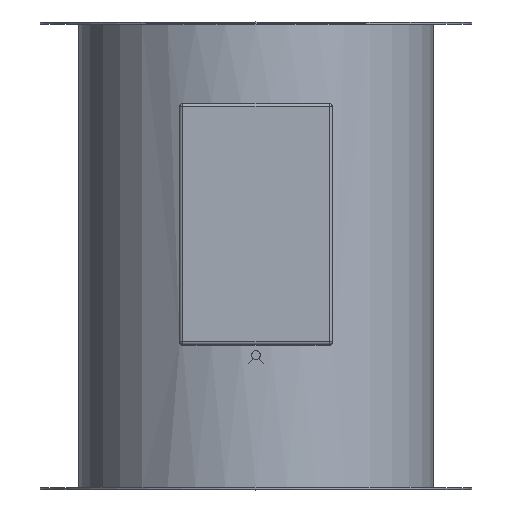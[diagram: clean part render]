
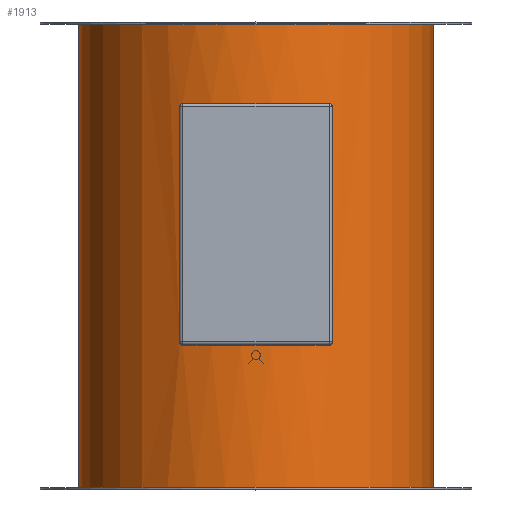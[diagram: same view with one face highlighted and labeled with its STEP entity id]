
A CAD part, top view. The second image highlights one B-rep face of the part: STEP entity #1913.
In plain terms, the highlighted cylindrical face has radius 113.75 mm (diameter 227.5 mm), a full revolution.
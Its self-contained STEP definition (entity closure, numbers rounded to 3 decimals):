
#19=FACE_BOUND('',#758,.T.);
#121=B_SPLINE_CURVE_WITH_KNOTS('',3,(#2638,#2639,#2640,#2641,#2642,#2643,
#2644,#2645,#2646,#2647),.UNSPECIFIED.,.F.,.F.,(4,2,2,2,4),(0.,0.075,
0.15,0.234,0.317),.UNSPECIFIED.);
#122=B_SPLINE_CURVE_WITH_KNOTS('',3,(#2676,#2677,#2678,#2679,#2680,#2681,
#2682,#2683,#2684,#2685),.UNSPECIFIED.,.F.,.F.,(4,2,2,2,4),(-0.317,
-0.234,-0.15,-0.075,0.),
 .UNSPECIFIED.);
#123=B_SPLINE_CURVE_WITH_KNOTS('',3,(#2691,#2692,#2693,#2694,#2695,#2696,
#2697,#2698,#2699,#2700),.UNSPECIFIED.,.F.,.F.,(4,2,2,2,4),(0.633,
0.708,0.783,0.866,0.95),
 .UNSPECIFIED.);
#124=B_SPLINE_CURVE_WITH_KNOTS('',3,(#2706,#2707,#2708,#2709,#2710,#2711,
#2712,#2713,#2714,#2715),.UNSPECIFIED.,.F.,.F.,(4,2,2,2,4),(0.316,
0.399,0.483,0.558,0.633),
 .UNSPECIFIED.);
#151=LINE('',#2719,#346);
#152=LINE('',#2724,#347);
#327=LINE('',#3255,#522);
#346=VECTOR('',#2168,10.);
#347=VECTOR('',#2177,10.);
#522=VECTOR('',#2592,112.5);
#549=CYLINDRICAL_SURFACE('',#2087,113.75);
#649=FACE_OUTER_BOUND('',#757,.T.);
#757=EDGE_LOOP('',(#1754,#1755,#1756,#1757));
#758=EDGE_LOOP('',(#1758,#1759,#1760,#1761,#1762,#1763,#1764,#1765));
#805=CIRCLE('',#1966,113.75);
#806=CIRCLE('',#1970,113.75);
#843=CIRCLE('',#2088,113.75);
#844=CIRCLE('',#2089,113.75);
#855=VERTEX_POINT('',#2636);
#856=VERTEX_POINT('',#2637);
#863=VERTEX_POINT('',#2674);
#864=VERTEX_POINT('',#2675);
#865=VERTEX_POINT('',#2689);
#866=VERTEX_POINT('',#2690);
#867=VERTEX_POINT('',#2704);
#868=VERTEX_POINT('',#2705);
#1011=VERTEX_POINT('',#3252);
#1012=VERTEX_POINT('',#3254);
#1025=EDGE_CURVE('',#855,#856,#121,.F.);
#1040=EDGE_CURVE('',#863,#864,#122,.F.);
#1043=EDGE_CURVE('',#865,#866,#123,.F.);
#1046=EDGE_CURVE('',#867,#868,#124,.F.);
#1049=EDGE_CURVE('',#863,#856,#151,.T.);
#1050=EDGE_CURVE('',#855,#868,#805,.T.);
#1051=EDGE_CURVE('',#867,#866,#152,.T.);
#1052=EDGE_CURVE('',#865,#864,#806,.T.);
#1273=EDGE_CURVE('',#1011,#1011,#843,.T.);
#1274=EDGE_CURVE('',#1011,#1012,#327,.T.);
#1275=EDGE_CURVE('',#1012,#1012,#844,.F.);
#1754=ORIENTED_EDGE('',*,*,#1273,.T.);
#1755=ORIENTED_EDGE('',*,*,#1274,.T.);
#1756=ORIENTED_EDGE('',*,*,#1275,.T.);
#1757=ORIENTED_EDGE('',*,*,#1274,.F.);
#1758=ORIENTED_EDGE('',*,*,#1051,.T.);
#1759=ORIENTED_EDGE('',*,*,#1043,.F.);
#1760=ORIENTED_EDGE('',*,*,#1052,.T.);
#1761=ORIENTED_EDGE('',*,*,#1040,.F.);
#1762=ORIENTED_EDGE('',*,*,#1049,.T.);
#1763=ORIENTED_EDGE('',*,*,#1025,.F.);
#1764=ORIENTED_EDGE('',*,*,#1050,.T.);
#1765=ORIENTED_EDGE('',*,*,#1046,.F.);
#1913=ADVANCED_FACE('',(#649,#19),#549,.T.);
#1966=AXIS2_PLACEMENT_3D('',#2721,#2171,#2172);
#1970=AXIS2_PLACEMENT_3D('',#2726,#2180,#2181);
#2087=AXIS2_PLACEMENT_3D('',#3251,#2588,#2589);
#2088=AXIS2_PLACEMENT_3D('',#3253,#2590,#2591);
#2089=AXIS2_PLACEMENT_3D('',#3256,#2593,#2594);
#2168=DIRECTION('',(0.,1.,0.));
#2171=DIRECTION('center_axis',(0.,1.,0.));
#2172=DIRECTION('ref_axis',(1.,0.,0.));
#2177=DIRECTION('',(0.,-1.,0.));
#2180=DIRECTION('center_axis',(0.,-1.,0.));
#2181=DIRECTION('ref_axis',(1.,0.,0.));
#2588=DIRECTION('center_axis',(0.,1.,0.));
#2589=DIRECTION('ref_axis',(1.,0.,0.));
#2590=DIRECTION('center_axis',(0.,-1.,0.));
#2591=DIRECTION('ref_axis',(1.,0.,0.));
#2592=DIRECTION('',(0.,-1.,0.));
#2593=DIRECTION('center_axis',(0.,-1.,0.));
#2594=DIRECTION('ref_axis',(1.,0.,0.));
#2636=CARTESIAN_POINT('',(-47.,97.5,103.586));
#2637=CARTESIAN_POINT('',(-49.,95.5,102.655));
#2638=CARTESIAN_POINT('Ctrl Pts',(-49.,95.5,102.655));
#2639=CARTESIAN_POINT('Ctrl Pts',(-49.,95.75,102.655));
#2640=CARTESIAN_POINT('Ctrl Pts',(-48.95,96.015,102.679));
#2641=CARTESIAN_POINT('Ctrl Pts',(-48.753,96.497,102.773));
#2642=CARTESIAN_POINT('Ctrl Pts',(-48.606,96.715,102.842));
#2643=CARTESIAN_POINT('Ctrl Pts',(-48.258,97.077,103.006));
#2644=CARTESIAN_POINT('Ctrl Pts',(-48.027,97.238,103.114));
#2645=CARTESIAN_POINT('Ctrl Pts',(-47.525,97.449,103.347));
#2646=CARTESIAN_POINT('Ctrl Pts',(-47.253,97.5,103.471));
#2647=CARTESIAN_POINT('Ctrl Pts',(-47.,97.5,103.586));
#2674=CARTESIAN_POINT('',(-49.,-55.5,102.655));
#2675=CARTESIAN_POINT('',(-47.,-57.5,103.586));
#2676=CARTESIAN_POINT('Ctrl Pts',(-47.,-57.5,103.586));
#2677=CARTESIAN_POINT('Ctrl Pts',(-47.253,-57.5,103.471));
#2678=CARTESIAN_POINT('Ctrl Pts',(-47.525,-57.449,103.347));
#2679=CARTESIAN_POINT('Ctrl Pts',(-48.027,-57.238,103.114));
#2680=CARTESIAN_POINT('Ctrl Pts',(-48.258,-57.077,103.006));
#2681=CARTESIAN_POINT('Ctrl Pts',(-48.606,-56.715,102.842));
#2682=CARTESIAN_POINT('Ctrl Pts',(-48.753,-56.497,102.773));
#2683=CARTESIAN_POINT('Ctrl Pts',(-48.95,-56.015,102.679));
#2684=CARTESIAN_POINT('Ctrl Pts',(-49.,-55.75,102.655));
#2685=CARTESIAN_POINT('Ctrl Pts',(-49.,-55.5,102.655));
#2689=CARTESIAN_POINT('',(47.,-57.5,103.586));
#2690=CARTESIAN_POINT('',(49.,-55.5,102.655));
#2691=CARTESIAN_POINT('Ctrl Pts',(49.,-55.5,102.655));
#2692=CARTESIAN_POINT('Ctrl Pts',(49.,-55.75,102.655));
#2693=CARTESIAN_POINT('Ctrl Pts',(48.95,-56.015,102.679));
#2694=CARTESIAN_POINT('Ctrl Pts',(48.753,-56.497,102.773));
#2695=CARTESIAN_POINT('Ctrl Pts',(48.606,-56.715,102.842));
#2696=CARTESIAN_POINT('Ctrl Pts',(48.258,-57.077,103.006));
#2697=CARTESIAN_POINT('Ctrl Pts',(48.027,-57.238,103.114));
#2698=CARTESIAN_POINT('Ctrl Pts',(47.525,-57.449,103.347));
#2699=CARTESIAN_POINT('Ctrl Pts',(47.253,-57.5,103.471));
#2700=CARTESIAN_POINT('Ctrl Pts',(47.,-57.5,103.586));
#2704=CARTESIAN_POINT('',(49.,95.5,102.655));
#2705=CARTESIAN_POINT('',(47.,97.5,103.586));
#2706=CARTESIAN_POINT('Ctrl Pts',(47.,97.5,103.586));
#2707=CARTESIAN_POINT('Ctrl Pts',(47.253,97.5,103.471));
#2708=CARTESIAN_POINT('Ctrl Pts',(47.525,97.449,103.347));
#2709=CARTESIAN_POINT('Ctrl Pts',(48.027,97.238,103.114));
#2710=CARTESIAN_POINT('Ctrl Pts',(48.258,97.077,103.006));
#2711=CARTESIAN_POINT('Ctrl Pts',(48.606,96.715,102.842));
#2712=CARTESIAN_POINT('Ctrl Pts',(48.753,96.497,102.773));
#2713=CARTESIAN_POINT('Ctrl Pts',(48.95,96.015,102.679));
#2714=CARTESIAN_POINT('Ctrl Pts',(49.,95.75,102.655));
#2715=CARTESIAN_POINT('Ctrl Pts',(49.,95.5,102.655));
#2719=CARTESIAN_POINT('',(-49.,0.,102.655));
#2721=CARTESIAN_POINT('Origin',(0.,97.5,0.));
#2724=CARTESIAN_POINT('',(49.,0.,102.655));
#2726=CARTESIAN_POINT('Origin',(0.,-57.5,0.));
#3251=CARTESIAN_POINT('Origin',(0.,0.,0.));
#3252=CARTESIAN_POINT('',(-113.75,148.75,0.));
#3253=CARTESIAN_POINT('Origin',(0.,148.75,0.));
#3254=CARTESIAN_POINT('',(-113.75,-148.75,0.));
#3255=CARTESIAN_POINT('',(-113.75,0.,0.));
#3256=CARTESIAN_POINT('Origin',(0.,-148.75,0.));
